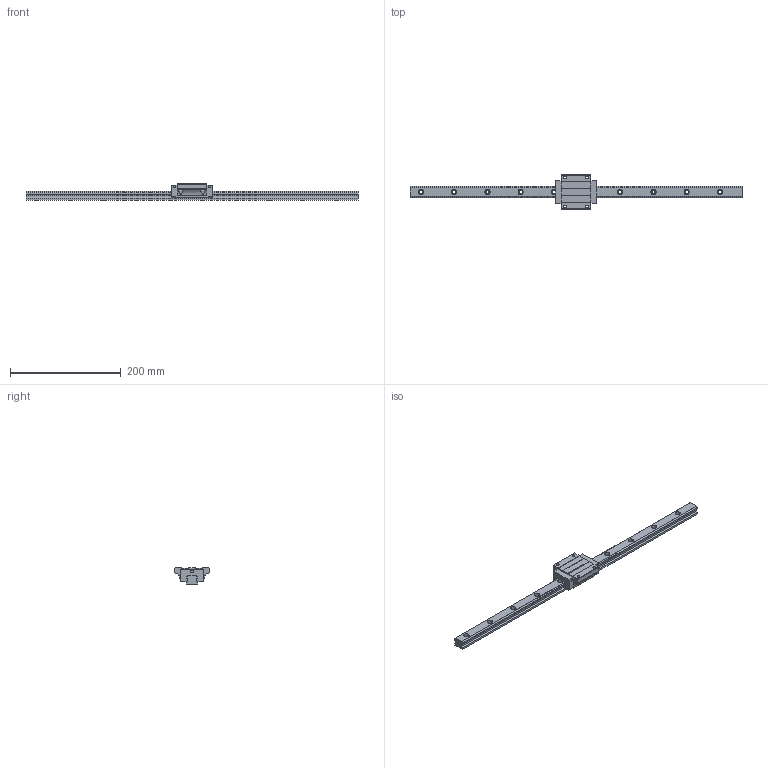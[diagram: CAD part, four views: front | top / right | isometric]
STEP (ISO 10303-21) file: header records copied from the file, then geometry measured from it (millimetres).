
FILE_DESCRIPTION (( 'STEP AP203' ), '1' );
FILE_NAME ('TRH20FN-XN.STEP', '2024-05-09T06:34:43', ( '' ), ( '' ), 'SwSTEP 2.0', 'SolidWorks 2022', '' );
FILE_SCHEMA (( 'CONFIG_CONTROL_DESIGN' ));
Length unit declared in the file: millimetre
Products named in the file (1): TRH20FN-XN
Bounding box: 600 x 63 x 30 mm (x, y, z)
Volume: 239594.8 mm3; surface area: 66323.4 mm2
Topology: 2 solids, 2 shells, 222 faces, 598 edges, 392 vertices
Faces by surface type: cylinder 126, plane 92, sphere 4
Entity records: 7729 total; most frequent: CARTESIAN_POINT 1871, DIRECTION 1242, ORIENTED_EDGE 1188, EDGE_CURVE 594, AXIS2_PLACEMENT_3D 451, VERTEX_POINT 392, VECTOR 340, LINE 340
